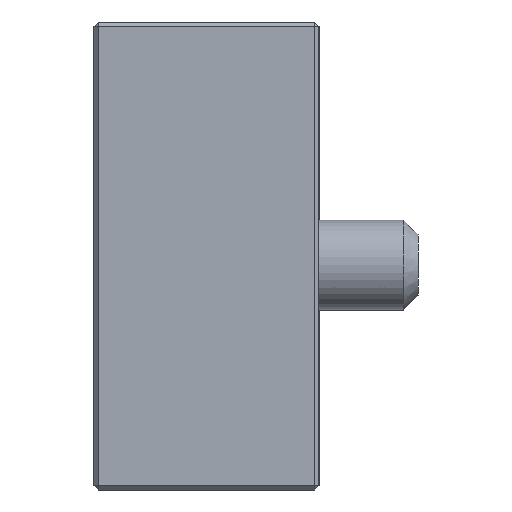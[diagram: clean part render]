
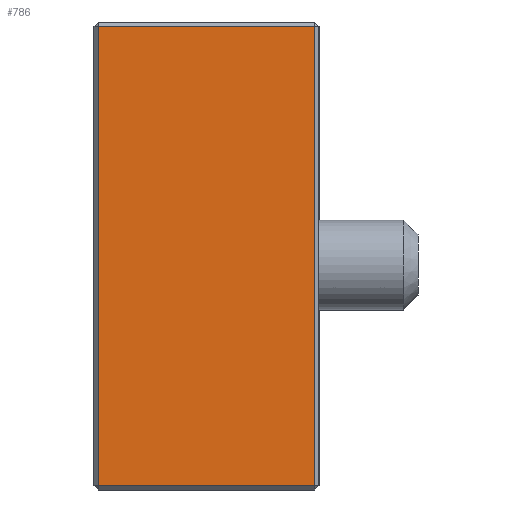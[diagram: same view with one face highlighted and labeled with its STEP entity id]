
A CAD part, left-side view. The second image highlights one B-rep face of the part: STEP entity #786.
In plain terms, the highlighted planar face has unit normal (-1, 0, 0).
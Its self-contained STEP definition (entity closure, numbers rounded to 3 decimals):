
#786=ADVANCED_FACE('',(#1698),#1700,.F.);
#1698=FACE_BOUND('',#1699,.T.);
#1699=EDGE_LOOP('',(#2309,#2310,#2311,#2312));
#1700=PLANE('',#1701);
#1701=AXIS2_PLACEMENT_3D('',#1702,#1703,#1704);
#1702=CARTESIAN_POINT('',(-65.,0.,0.));
#1703=DIRECTION('',(1.,0.,0.));
#1704=DIRECTION('',(0.,1.,0.));
#2309=ORIENTED_EDGE('',*,*,#2628,.F.);
#2310=ORIENTED_EDGE('',*,*,#2638,.F.);
#2311=ORIENTED_EDGE('',*,*,#2590,.F.);
#2312=ORIENTED_EDGE('',*,*,#2639,.F.);
#2590=EDGE_CURVE('',#2922,#2920,#2924,.T.);
#2628=EDGE_CURVE('',#2981,#2979,#2983,.T.);
#2638=EDGE_CURVE('',#2920,#2981,#2995,.T.);
#2639=EDGE_CURVE('',#2979,#2922,#2996,.T.);
#2920=VERTEX_POINT('',#3831);
#2922=VERTEX_POINT('',#3835);
#2924=LINE('',#3839,#3840);
#2979=VERTEX_POINT('',#3971);
#2981=VERTEX_POINT('',#3975);
#2983=LINE('',#3979,#3980);
#2995=LINE('',#4011,#4012);
#2996=LINE('',#4014,#4015);
#3831=CARTESIAN_POINT('',(-65.,-12.,-24.5));
#3835=CARTESIAN_POINT('',(-65.,-12.,26.5));
#3839=CARTESIAN_POINT('',(-65.,-12.,26.5));
#3840=VECTOR('',#3841,1.);
#3841=DIRECTION('',(0.,0.,-1.));
#3971=CARTESIAN_POINT('',(-65.,12.,26.5));
#3975=CARTESIAN_POINT('',(-65.,12.,-24.5));
#3979=CARTESIAN_POINT('',(-65.,12.,-24.5));
#3980=VECTOR('',#3981,1.);
#3981=DIRECTION('',(0.,0.,1.));
#4011=CARTESIAN_POINT('',(-65.,-12.,-24.5));
#4012=VECTOR('',#4013,1.);
#4013=DIRECTION('',(0.,1.,0.));
#4014=CARTESIAN_POINT('',(-65.,12.,26.5));
#4015=VECTOR('',#4016,1.);
#4016=DIRECTION('',(0.,-1.,0.));
